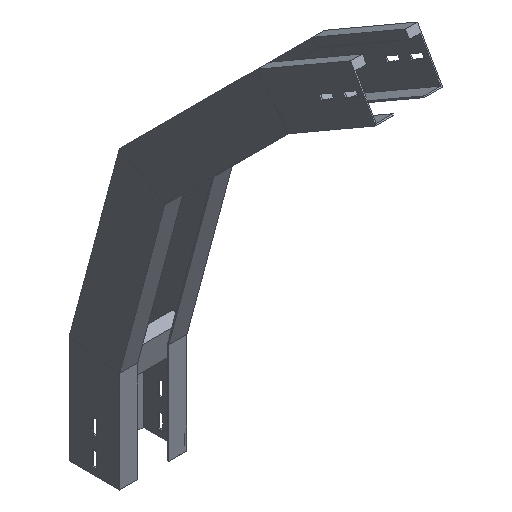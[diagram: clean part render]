
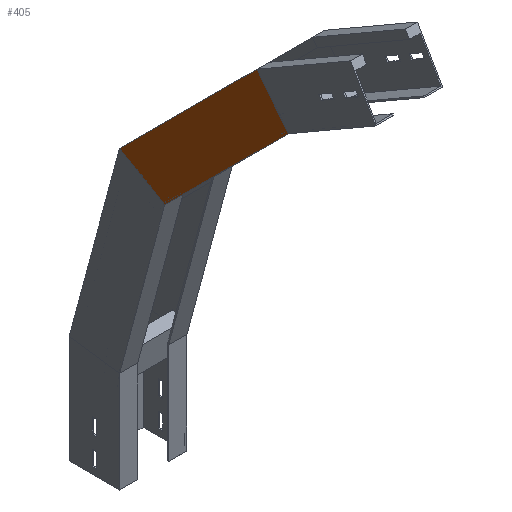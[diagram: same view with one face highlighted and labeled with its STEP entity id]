
A CAD part, isometric view. The second image highlights one B-rep face of the part: STEP entity #405.
In plain terms, the highlighted planar face has unit normal (-1, 0, 0) as drawn and (1, 0, 0) by its records, which use the part's own axes.
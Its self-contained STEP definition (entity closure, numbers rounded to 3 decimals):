
#8 = ORIENTED_EDGE ( 'NONE', *, *, #1568, .F. ) ;
#99 = CARTESIAN_POINT ( 'NONE',  ( 0., 0.209, 438.998 ) ) ;
#154 = ORIENTED_EDGE ( 'NONE', *, *, #1144, .T. ) ;
#162 = CARTESIAN_POINT ( 'NONE',  ( 0., -127.544, 365.239 ) ) ;
#241 = CARTESIAN_POINT ( 'NONE',  ( 0., 0., 150. ) ) ;
#364 = VERTEX_POINT ( 'NONE', #241 ) ;
#373 = FACE_OUTER_BOUND ( 'NONE', #678, .T. ) ;
#378 = VERTEX_POINT ( 'NONE', #99 ) ;
#380 = CARTESIAN_POINT ( 'NONE',  ( 0., 2.837, 139.412 ) ) ;
#405 = ADVANCED_FACE ( 'NONE', ( #373 ), #1666, .T. ) ;
#421 = CARTESIAN_POINT ( 'NONE',  ( 0., 75., 159.874 ) ) ;
#476 = VERTEX_POINT ( 'NONE', #657 ) ;
#517 = CARTESIAN_POINT ( 'NONE',  ( 0., 2.837, 139.412 ) ) ;
#577 = LINE ( 'NONE', #162, #932 ) ;
#624 = VECTOR ( 'NONE', #1670, 1000. ) ;
#657 = CARTESIAN_POINT ( 'NONE',  ( 0., -67.034, 400.175 ) ) ;
#675 = AXIS2_PLACEMENT_3D ( 'NONE', #380, #904, #1424 ) ;
#678 = EDGE_LOOP ( 'NONE', ( #154, #1643, #8, #919 ) ) ;
#707 = CARTESIAN_POINT ( 'NONE',  ( 0., 75.281, 158.824 ) ) ;
#785 = EDGE_CURVE ( 'NONE', #1496, #364, #1146, .T. ) ;
#901 = VECTOR ( 'NONE', #1228, 1000. ) ;
#904 = DIRECTION ( 'NONE',  ( 1., 0., 0. ) ) ;
#919 = ORIENTED_EDGE ( 'NONE', *, *, #785, .F. ) ;
#932 = VECTOR ( 'NONE', #1629, 1000. ) ;
#1009 = LINE ( 'NONE', #517, #1391 ) ;
#1046 = EDGE_CURVE ( 'NONE', #378, #476, #577, .T. ) ;
#1144 = EDGE_CURVE ( 'NONE', #1496, #378, #1501, .T. ) ;
#1146 = LINE ( 'NONE', #1298, #624 ) ;
#1228 = DIRECTION ( 'NONE',  ( 0., -0.259, 0.966 ) ) ;
#1298 = CARTESIAN_POINT ( 'NONE',  ( 0., -19.411, 147.444 ) ) ;
#1301 = DIRECTION ( 'NONE',  ( 0., -0.259, 0.966 ) ) ;
#1391 = VECTOR ( 'NONE', #1301, 1000. ) ;
#1424 = DIRECTION ( 'NONE',  ( 0., 0., -1. ) ) ;
#1496 = VERTEX_POINT ( 'NONE', #421 ) ;
#1501 = LINE ( 'NONE', #707, #901 ) ;
#1568 = EDGE_CURVE ( 'NONE', #364, #476, #1009, .T. ) ;
#1629 = DIRECTION ( 'NONE',  ( 0., -0.866, -0.5 ) ) ;
#1643 = ORIENTED_EDGE ( 'NONE', *, *, #1046, .T. ) ;
#1666 = PLANE ( 'NONE',  #675 ) ;
#1670 = DIRECTION ( 'NONE',  ( 0., -0.991, -0.131 ) ) ;
